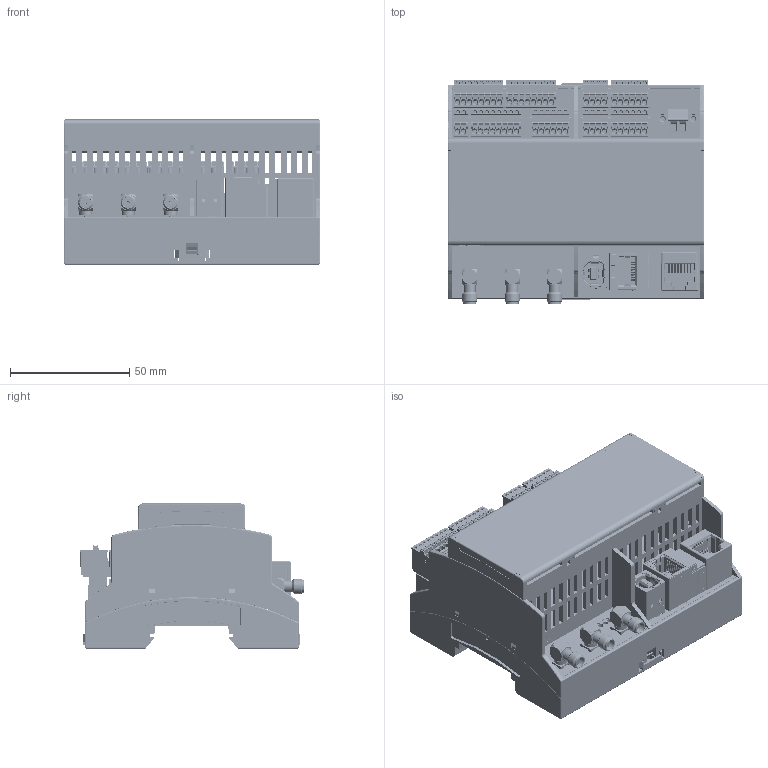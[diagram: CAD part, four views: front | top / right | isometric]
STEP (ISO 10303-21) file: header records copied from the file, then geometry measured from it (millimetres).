
FILE_DESCRIPTION (( 'STEP AP214' ), '1' );
FILE_NAME ('CUA32-MST-DC.STEP', '2010-09-16T02:43:28', ( '' ), ( '' ), 'SwSTEP 2.0', 'SolidWorks 2011', '' );
FILE_SCHEMA (( 'AUTOMOTIVE_DESIGN' ));
Length unit declared in the file: millimetre
Products named in the file (21): 1881341_05; 1881367_05; 1881383_05; 1881325_05; 1827703_07; LED; 1830596_05; 2896173; 2896089; Switch; USB-straight; 615008138021-rev1; 7499210123; 7644; 1881574_00; 1881613_00; 1881558_01; 1881590_00; 2896270; PCB_CUA32-MST-DC; CUA32-MST-DC
Assembly tree (33 placements, depth 2):
  CUA32-MST-DC
    1830596_05
    7499210123
    1881574_00  x2
    1881590_00  x3
    2896173
    1827703_07
    Switch  x2
    1881367_05  x3
    1881558_01
    1881383_05  x3
    2896089
    USB-straight
    1881613_00  x3
    2896270
    1881341_05  x2
    615008138021-rev1
    LED
    7644  x3
    1881325_05
    PCB_CUA32-MST-DC
Bounding box: 107.6 x 94.14 x 60.8 mm (x, y, z)
Volume: 123916.5 mm3; surface area: 156355.8 mm2
Topology: 35 solids, 63 shells, 12880 faces, 34995 edges, 22873 vertices
Faces by surface type: plane 9065, cylinder 3343, cone 362, bspline 106, torus 4
Entity records: 334890 total; most frequent: CARTESIAN_POINT 53844, ORIENTED_EDGE 43965, DIRECTION 40827, EDGE_CURVE 22332, VECTOR 16903, LINE 16903, VERTEX_POINT 14734, AXIS2_PLACEMENT_3D 11962
